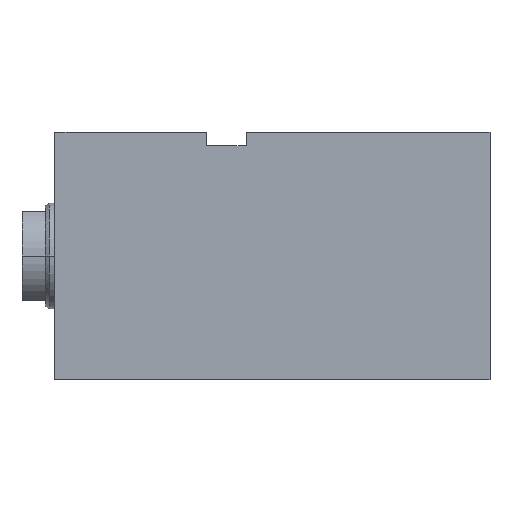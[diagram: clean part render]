
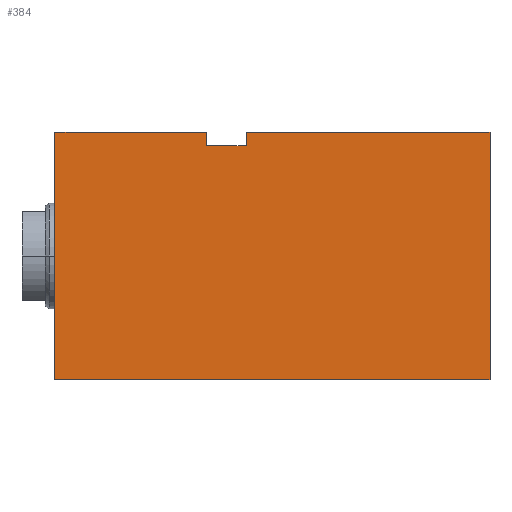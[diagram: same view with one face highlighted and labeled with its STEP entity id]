
A CAD part, left-side view. The second image highlights one B-rep face of the part: STEP entity #384.
In plain terms, the highlighted planar face has unit normal (-1, 0, 0).
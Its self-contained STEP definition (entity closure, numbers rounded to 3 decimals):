
#181 = CARTESIAN_POINT ( 'NONE',  ( -50., 0., -37.5 ) ) ;
#197 = EDGE_CURVE ( 'NONE', #3124, #2694, #1204, .T. ) ;
#222 = LINE ( 'NONE', #2998, #1556 ) ;
#257 = VECTOR ( 'NONE', #710, 1000. ) ;
#276 = DIRECTION ( 'NONE',  ( 0., 0., 1. ) ) ;
#284 = LINE ( 'NONE', #618, #257 ) ;
#303 = VECTOR ( 'NONE', #2986, 1000. ) ;
#381 = VECTOR ( 'NONE', #3082, 1000. ) ;
#384 = ADVANCED_FACE ( 'NONE', ( #1067 ), #934, .F. ) ;
#387 = VECTOR ( 'NONE', #2847, 1000. ) ;
#391 = LINE ( 'NONE', #2809, #387 ) ;
#618 = CARTESIAN_POINT ( 'NONE',  ( -50., 82., 37.5 ) ) ;
#710 = DIRECTION ( 'NONE',  ( 0., -1., 0. ) ) ;
#732 = LINE ( 'NONE', #2086, #381 ) ;
#907 = CARTESIAN_POINT ( 'NONE',  ( -50., 82., -37.5 ) ) ;
#934 = PLANE ( 'NONE',  #1033 ) ;
#946 = DIRECTION ( 'NONE',  ( 1., 0., 0. ) ) ;
#950 = DIRECTION ( 'NONE',  ( 0., 0., -1. ) ) ;
#1033 = AXIS2_PLACEMENT_3D ( 'NONE', #907, #946, #950 ) ;
#1044 = CARTESIAN_POINT ( 'NONE',  ( -50., 0., 37.5 ) ) ;
#1067 = FACE_OUTER_BOUND ( 'NONE', #1417, .T. ) ;
#1069 = CARTESIAN_POINT ( 'NONE',  ( -50., 74., 33.5 ) ) ;
#1189 = CARTESIAN_POINT ( 'NONE',  ( -50., 86., 33.5 ) ) ;
#1199 = VECTOR ( 'NONE', #276, 1000. ) ;
#1204 = LINE ( 'NONE', #181, #1199 ) ;
#1417 = EDGE_LOOP ( 'NONE', ( #3159, #3033, #3029, #3037, #3047, #3044, #3043, #3048 ) ) ;
#1430 = CARTESIAN_POINT ( 'NONE',  ( -50., 0., -37.5 ) ) ;
#1467 = VERTEX_POINT ( 'NONE', #2716 ) ;
#1470 = VECTOR ( 'NONE', #2121, 1000. ) ;
#1505 = LINE ( 'NONE', #2628, #1470 ) ;
#1556 = VECTOR ( 'NONE', #3025, 1000. ) ;
#1604 = EDGE_CURVE ( 'NONE', #2834, #1467, #391, .T. ) ;
#1730 = LINE ( 'NONE', #2228, #1768 ) ;
#1768 = VECTOR ( 'NONE', #2243, 1000. ) ;
#2043 = CARTESIAN_POINT ( 'NONE',  ( -50., 132., -37.5 ) ) ;
#2086 = CARTESIAN_POINT ( 'NONE',  ( -50., 74., 33.5 ) ) ;
#2121 = DIRECTION ( 'NONE',  ( 0., -1., 0. ) ) ;
#2139 = CARTESIAN_POINT ( 'NONE',  ( -50., 74., 37.5 ) ) ;
#2222 = EDGE_CURVE ( 'NONE', #2797, #2694, #284, .T. ) ;
#2228 = CARTESIAN_POINT ( 'NONE',  ( -50., 82., -37.5 ) ) ;
#2243 = DIRECTION ( 'NONE',  ( 0., -1., 0. ) ) ;
#2250 = LINE ( 'NONE', #3016, #303 ) ;
#2271 = VERTEX_POINT ( 'NONE', #1069 ) ;
#2328 = VERTEX_POINT ( 'NONE', #1189 ) ;
#2371 = CARTESIAN_POINT ( 'NONE',  ( -50., 86., 37.5 ) ) ;
#2423 = VERTEX_POINT ( 'NONE', #2371 ) ;
#2628 = CARTESIAN_POINT ( 'NONE',  ( -50., 86., 33.5 ) ) ;
#2694 = VERTEX_POINT ( 'NONE', #1044 ) ;
#2716 = CARTESIAN_POINT ( 'NONE',  ( -50., 132., 37.5 ) ) ;
#2774 = EDGE_CURVE ( 'NONE', #2834, #3124, #1730, .T. ) ;
#2797 = VERTEX_POINT ( 'NONE', #2139 ) ;
#2809 = CARTESIAN_POINT ( 'NONE',  ( -50., 132., -37.5 ) ) ;
#2834 = VERTEX_POINT ( 'NONE', #2043 ) ;
#2847 = DIRECTION ( 'NONE',  ( 0., 0., 1. ) ) ;
#2902 = EDGE_CURVE ( 'NONE', #2271, #2797, #732, .T. ) ;
#2964 = EDGE_CURVE ( 'NONE', #2328, #2271, #1505, .T. ) ;
#2986 = DIRECTION ( 'NONE',  ( 0., 0., 1. ) ) ;
#2998 = CARTESIAN_POINT ( 'NONE',  ( -50., 82., 37.5 ) ) ;
#3016 = CARTESIAN_POINT ( 'NONE',  ( -50., 86., 33.5 ) ) ;
#3025 = DIRECTION ( 'NONE',  ( 0., -1., 0. ) ) ;
#3029 = ORIENTED_EDGE ( 'NONE', *, *, #2964, .F. ) ;
#3033 = ORIENTED_EDGE ( 'NONE', *, *, #2902, .F. ) ;
#3037 = ORIENTED_EDGE ( 'NONE', *, *, #3041, .T. ) ;
#3041 = EDGE_CURVE ( 'NONE', #2328, #2423, #2250, .T. ) ;
#3043 = ORIENTED_EDGE ( 'NONE', *, *, #2774, .T. ) ;
#3044 = ORIENTED_EDGE ( 'NONE', *, *, #1604, .F. ) ;
#3047 = ORIENTED_EDGE ( 'NONE', *, *, #3054, .F. ) ;
#3048 = ORIENTED_EDGE ( 'NONE', *, *, #197, .T. ) ;
#3054 = EDGE_CURVE ( 'NONE', #1467, #2423, #222, .T. ) ;
#3082 = DIRECTION ( 'NONE',  ( 0., 0., 1. ) ) ;
#3124 = VERTEX_POINT ( 'NONE', #1430 ) ;
#3159 = ORIENTED_EDGE ( 'NONE', *, *, #2222, .F. ) ;
